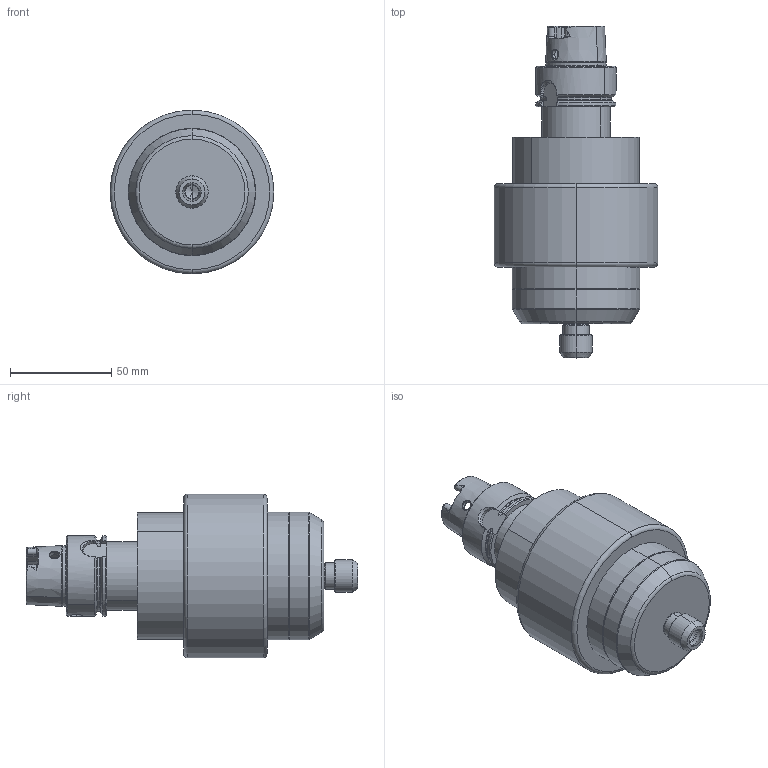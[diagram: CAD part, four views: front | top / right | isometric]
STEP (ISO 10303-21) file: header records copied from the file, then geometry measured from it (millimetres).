
FILE_DESCRIPTION (( 'STEP AP214' ), '1' );
FILE_NAME ('TJS GJET HSK A40 V4 - Light.STEP', '2025-11-08T15:34:23', ( 'pc' ), ( '' ), 'SwSTEP 2.0', 'SolidWorks 2024', '' );
FILE_SCHEMA (( 'AUTOMOTIVE_DESIGN' ));
Length unit declared in the file: millimetre
Products named in the file (1): TJS GJET HSK A40 V4 - Light
Bounding box: 81 x 164.3 x 81 mm (x, y, z)
Volume: 405784.3 mm3; surface area: 41714.4 mm2
Topology: 1 solids, 1 shells, 238 faces, 618 edges, 390 vertices
Faces by surface type: cone 72, cylinder 67, plane 58, bspline 31, torus 10
Entity records: 8700 total; most frequent: CARTESIAN_POINT 3069, ORIENTED_EDGE 1228, DIRECTION 1150, EDGE_CURVE 614, AXIS2_PLACEMENT_3D 478, VERTEX_POINT 390, CIRCLE 270, EDGE_LOOP 254
